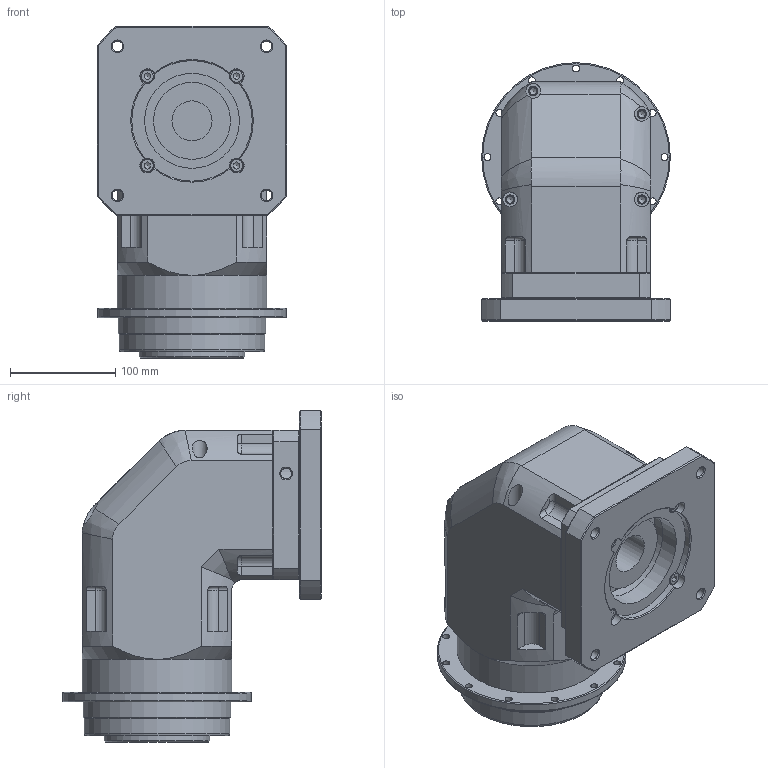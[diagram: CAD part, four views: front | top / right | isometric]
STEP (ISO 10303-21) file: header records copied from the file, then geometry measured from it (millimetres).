
FILE_DESCRIPTION((''),'2;1');
FILE_NAME('D:\유성\유성\도면\3D\2. 홈페이지용 3D 도면 (ipt)\외부도\SPLFH142\SPLFH142 SERIES (1 STAGE)_Shrinkwrap_2.stp','2014-05-07T10:06:18',('nagyu'),(''),'Autodesk Inventor 2013','Autodesk Inventor 2013','');
FILE_SCHEMA(('AUTOMOTIVE_DESIGN { 1 0 10303 214 1 1 1 1 }'));
Length unit declared in the file: millimetre
Products named in the file (1): SPLFH142 SERIES (1 STAGE)_Shrinkwrap_2
Bounding box: 180 x 245.5 x 315 mm (x, y, z)
Volume: 5153012.4 mm3; surface area: 432107.2 mm2
Topology: 1 solids, 17 shells, 449 faces, 1029 edges, 659 vertices
Faces by surface type: plane 178, cylinder 167, cone 82, torus 18, bspline 4
Full cylindrical faces by diameter (mm): 6.6 x12, 6.647 x24, 8 x5, 8.7 x8, 9 x4, 10.106 x5, 13 x15, 14 x12, 15 x1, 19 x1, 19.1 x1, 38 x1, 44.8 x1, 50 x1, 73 x1, 80 x1, 90 x3, 100 x4, 103 x1, 110 x1, 120 x2, 125 x1, 129.8 x1, 130 x1, 131 x1, 138 x1, 140 x1, 142 x1, 179 x1
Entity records: 11848 total; most frequent: CARTESIAN_POINT 2667, DIRECTION 1919, ORIENTED_EDGE 1530, AXIS2_PLACEMENT_3D 841, EDGE_CURVE 765, EDGE_LOOP 720, VERTEX_POINT 575, FACE_OUTER_BOUND 449
